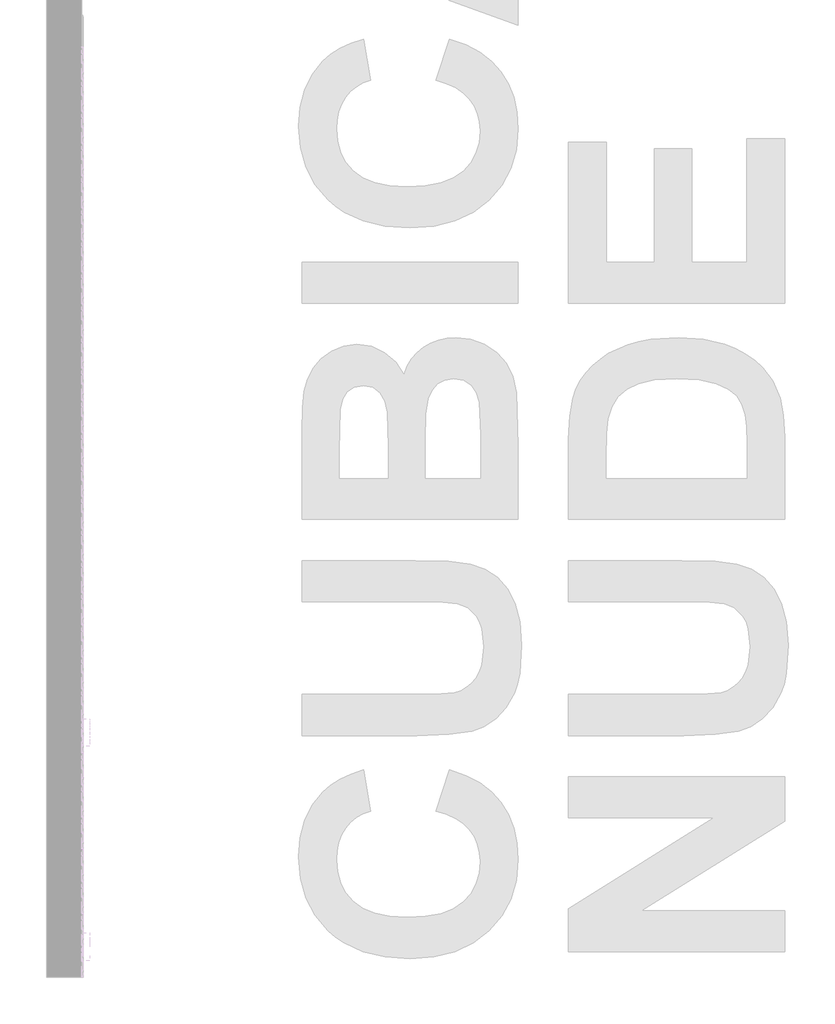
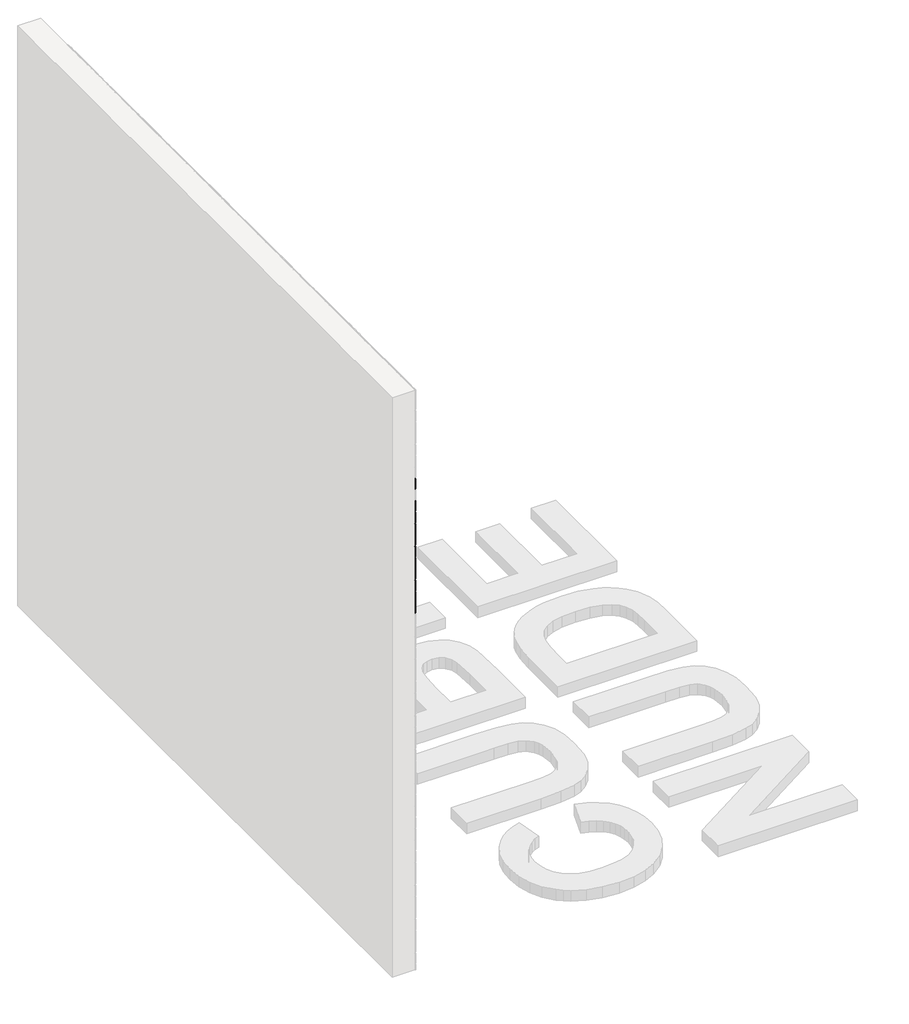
# One storey, part 52 of 121: 144 proxies.
"""IFC4 building model written with IfcOpenShell, lengths in millimetres."""

from ifc_helpers import new_model, si_unit, origin, place, context, project, spatial, transform, mapped, element, save
from components import generic_models_b2b2c5c1, generic_models_9bf73f6f, generic_models_5d175859, generic_models_45888c4d

model = new_model("IFC4")

# Units and contexts
model_context = context("Model", 3, world=origin())
ifc_project = project(units=[si_unit("LENGTHUNIT", "METRE", prefix="MILLI")], contexts=[model_context])

# Site, building, storey
site = spatial("IfcSite", under=ifc_project)
building = spatial("IfcBuilding", under=site)
storey = spatial("IfcBuildingStorey", under=building, Name="PORTOBELLO - SHOWROOM", Elevation=0.0)

# Proxies
placement = place(None, origin())
generic_models_shape = generic_models_b2b2c5c1(model_context)
element("IfcBuildingElementProxy", 1, Name="PBSHOP - CUBICA NUDE 4,8X8,3 : CUBICA NUDE - POSIÇÃO 01", ObjectType="PBSHOP - CUBICA NUDE 4,8X8,3 : CUBICA NUDE - POSIÇÃO 01", at=placement, inside=storey, context=model_context, shape_type="MappedRepresentation", body=[
    mapped(generic_models_shape, transform((150369.5341846, 6714.4851879, 1697.0495727), x_axis=(0.0, 1.0, 0.0), y_axis=(0.0, 0.0, 1.0), z_axis=(1.0, 0.0, 0.0))),
])
element("IfcBuildingElementProxy", 2, Name="PBSHOP - CUBICA NUDE 4,8X8,3 : CUBICA NUDE - POSIÇÃO 01", ObjectType="PBSHOP - CUBICA NUDE 4,8X8,3 : CUBICA NUDE - POSIÇÃO 01", at=placement, inside=storey, context=model_context, shape_type="MappedRepresentation", body=[
    mapped(generic_models_shape, transform((150369.5341846, 6805.3244572, 1697.0495727), x_axis=(0.0, 1.0, 0.0), y_axis=(0.0, 0.0, 1.0), z_axis=(1.0, 0.0, 0.0))),
])
element("IfcBuildingElementProxy", 3, Name="PBSHOP - CUBICA NUDE 4,8X8,3 : CUBICA NUDE - POSIÇÃO 01", ObjectType="PBSHOP - CUBICA NUDE 4,8X8,3 : CUBICA NUDE - POSIÇÃO 01", at=placement, inside=storey, context=model_context, shape_type="MappedRepresentation", body=[
    mapped(generic_models_shape, transform((150369.5341846, 6896.1637264, 1697.0495727), x_axis=(0.0, 1.0, 0.0), y_axis=(0.0, 0.0, 1.0), z_axis=(1.0, 0.0, 0.0))),
])
element("IfcBuildingElementProxy", 4, Name="PBSHOP - CUBICA NUDE 4,8X8,3 : CUBICA NUDE - POSIÇÃO 01", ObjectType="PBSHOP - CUBICA NUDE 4,8X8,3 : CUBICA NUDE - POSIÇÃO 01", at=placement, inside=storey, context=model_context, shape_type="MappedRepresentation", body=[
    mapped(generic_models_shape, transform((150369.5341846, 6987.0029957, 1697.0495727), x_axis=(0.0, 1.0, 0.0), y_axis=(0.0, 0.0, 1.0), z_axis=(1.0, 0.0, 0.0))),
])
element("IfcBuildingElementProxy", 5, Name="PBSHOP - CUBICA NUDE 4,8X8,3 : CUBICA NUDE - POSIÇÃO 01", ObjectType="PBSHOP - CUBICA NUDE 4,8X8,3 : CUBICA NUDE - POSIÇÃO 01", at=placement, inside=storey, context=model_context, shape_type="MappedRepresentation", body=[
    mapped(generic_models_shape, transform((150369.5341846, 6396.5477456, 1775.984211), x_axis=(0.0, 1.0, 0.0), y_axis=(0.0, 0.0, 1.0), z_axis=(1.0, 0.0, 0.0))),
])
element("IfcBuildingElementProxy", 6, Name="PBSHOP - CUBICA NUDE 4,8X8,3 : CUBICA NUDE - POSIÇÃO 01", ObjectType="PBSHOP - CUBICA NUDE 4,8X8,3 : CUBICA NUDE - POSIÇÃO 01", at=placement, inside=storey, context=model_context, shape_type="MappedRepresentation", body=[
    mapped(generic_models_shape, transform((150369.5341846, 6487.3870148, 1775.984211), x_axis=(0.0, 1.0, 0.0), y_axis=(0.0, 0.0, 1.0), z_axis=(1.0, 0.0, 0.0))),
])
element("IfcBuildingElementProxy", 7, Name="PBSHOP - CUBICA NUDE 4,8X8,3 : CUBICA NUDE - POSIÇÃO 01", ObjectType="PBSHOP - CUBICA NUDE 4,8X8,3 : CUBICA NUDE - POSIÇÃO 01", at=placement, inside=storey, context=model_context, shape_type="MappedRepresentation", body=[
    mapped(generic_models_shape, transform((150369.5341846, 6578.2262841, 1775.984211), x_axis=(0.0, 1.0, 0.0), y_axis=(0.0, 0.0, 1.0), z_axis=(1.0, 0.0, 0.0))),
])
element("IfcBuildingElementProxy", 8, Name="PBSHOP - CUBICA NUDE 4,8X8,3 : CUBICA NUDE - POSIÇÃO 01", ObjectType="PBSHOP - CUBICA NUDE 4,8X8,3 : CUBICA NUDE - POSIÇÃO 01", at=placement, inside=storey, context=model_context, shape_type="MappedRepresentation", body=[
    mapped(generic_models_shape, transform((150369.5341846, 6669.0655533, 1775.984211), x_axis=(0.0, 1.0, 0.0), y_axis=(0.0, 0.0, 1.0), z_axis=(1.0, 0.0, 0.0))),
])
element("IfcBuildingElementProxy", 9, Name="PBSHOP - CUBICA NUDE 4,8X8,3 : CUBICA NUDE - POSIÇÃO 01", ObjectType="PBSHOP - CUBICA NUDE 4,8X8,3 : CUBICA NUDE - POSIÇÃO 01", at=placement, inside=storey, context=model_context, shape_type="MappedRepresentation", body=[
    mapped(generic_models_shape, transform((150369.5341846, 6759.9048225, 1775.984211), x_axis=(0.0, 1.0, 0.0), y_axis=(0.0, 0.0, 1.0), z_axis=(1.0, 0.0, 0.0))),
])
element("IfcBuildingElementProxy", 10, Name="PBSHOP - CUBICA NUDE 4,8X8,3 : CUBICA NUDE - POSIÇÃO 01", ObjectType="PBSHOP - CUBICA NUDE 4,8X8,3 : CUBICA NUDE - POSIÇÃO 01", at=placement, inside=storey, context=model_context, shape_type="MappedRepresentation", body=[
    mapped(generic_models_shape, transform((150369.5341846, 6850.7440918, 1775.984211), x_axis=(0.0, 1.0, 0.0), y_axis=(0.0, 0.0, 1.0), z_axis=(1.0, 0.0, 0.0))),
])
element("IfcBuildingElementProxy", 11, Name="PBSHOP - CUBICA NUDE 4,8X8,3 : CUBICA NUDE - POSIÇÃO 01", ObjectType="PBSHOP - CUBICA NUDE 4,8X8,3 : CUBICA NUDE - POSIÇÃO 01", at=placement, inside=storey, context=model_context, shape_type="MappedRepresentation", body=[
    mapped(generic_models_shape, transform((150369.5341846, 6941.583361, 1775.984211), x_axis=(0.0, 1.0, 0.0), y_axis=(0.0, 0.0, 1.0), z_axis=(1.0, 0.0, 0.0))),
])
element("IfcBuildingElementProxy", 12, Name="PBSHOP - CUBICA NUDE 4,8X8,3 : CUBICA NUDE - POSIÇÃO 01", ObjectType="PBSHOP - CUBICA NUDE 4,8X8,3 : CUBICA NUDE - POSIÇÃO 01", at=placement, inside=storey, context=model_context, shape_type="MappedRepresentation", body=[
    mapped(generic_models_shape, transform((150369.5341846, 6441.9673802, 1854.9188494), x_axis=(0.0, 1.0, 0.0), y_axis=(0.0, 0.0, 1.0), z_axis=(1.0, 0.0, 0.0))),
])
element("IfcBuildingElementProxy", 13, Name="PBSHOP - CUBICA NUDE 4,8X8,3 : CUBICA NUDE - POSIÇÃO 01", ObjectType="PBSHOP - CUBICA NUDE 4,8X8,3 : CUBICA NUDE - POSIÇÃO 01", at=placement, inside=storey, context=model_context, shape_type="MappedRepresentation", body=[
    mapped(generic_models_shape, transform((150369.5341846, 6532.8066494, 1854.9188494), x_axis=(0.0, 1.0, 0.0), y_axis=(0.0, 0.0, 1.0), z_axis=(1.0, 0.0, 0.0))),
])
element("IfcBuildingElementProxy", 14, Name="PBSHOP - CUBICA NUDE 4,8X8,3 : CUBICA NUDE - POSIÇÃO 01", ObjectType="PBSHOP - CUBICA NUDE 4,8X8,3 : CUBICA NUDE - POSIÇÃO 01", at=placement, inside=storey, context=model_context, shape_type="MappedRepresentation", body=[
    mapped(generic_models_shape, transform((150369.5341846, 6623.6459187, 1854.9188494), x_axis=(0.0, 1.0, 0.0), y_axis=(0.0, 0.0, 1.0), z_axis=(1.0, 0.0, 0.0))),
])
element("IfcBuildingElementProxy", 15, Name="PBSHOP - CUBICA NUDE 4,8X8,3 : CUBICA NUDE - POSIÇÃO 01", ObjectType="PBSHOP - CUBICA NUDE 4,8X8,3 : CUBICA NUDE - POSIÇÃO 01", at=placement, inside=storey, context=model_context, shape_type="MappedRepresentation", body=[
    mapped(generic_models_shape, transform((150369.5341846, 6714.4851879, 1854.9188494), x_axis=(0.0, 1.0, 0.0), y_axis=(0.0, 0.0, 1.0), z_axis=(1.0, 0.0, 0.0))),
])
element("IfcBuildingElementProxy", 16, Name="PBSHOP - CUBICA NUDE 4,8X8,3 : CUBICA NUDE - POSIÇÃO 01", ObjectType="PBSHOP - CUBICA NUDE 4,8X8,3 : CUBICA NUDE - POSIÇÃO 01", at=placement, inside=storey, context=model_context, shape_type="MappedRepresentation", body=[
    mapped(generic_models_shape, transform((150369.5341846, 6805.3244572, 1854.9188494), x_axis=(0.0, 1.0, 0.0), y_axis=(0.0, 0.0, 1.0), z_axis=(1.0, 0.0, 0.0))),
])
element("IfcBuildingElementProxy", 17, Name="PBSHOP - CUBICA NUDE 4,8X8,3 : CUBICA NUDE - POSIÇÃO 01", ObjectType="PBSHOP - CUBICA NUDE 4,8X8,3 : CUBICA NUDE - POSIÇÃO 01", at=placement, inside=storey, context=model_context, shape_type="MappedRepresentation", body=[
    mapped(generic_models_shape, transform((150369.5341846, 6896.1637264, 1854.9188494), x_axis=(0.0, 1.0, 0.0), y_axis=(0.0, 0.0, 1.0), z_axis=(1.0, 0.0, 0.0))),
])
element("IfcBuildingElementProxy", 18, Name="PBSHOP - CUBICA NUDE 4,8X8,3 : CUBICA NUDE - POSIÇÃO 01", ObjectType="PBSHOP - CUBICA NUDE 4,8X8,3 : CUBICA NUDE - POSIÇÃO 01", at=placement, inside=storey, context=model_context, shape_type="MappedRepresentation", body=[
    mapped(generic_models_shape, transform((150369.5341846, 6987.0029957, 1854.9188494), x_axis=(0.0, 1.0, 0.0), y_axis=(0.0, 0.0, 1.0), z_axis=(1.0, 0.0, 0.0))),
])
element("IfcBuildingElementProxy", 19, Name="PBSHOP - CUBICA NUDE 4,8X8,3 : CUBICA NUDE - POSIÇÃO 01", ObjectType="PBSHOP - CUBICA NUDE 4,8X8,3 : CUBICA NUDE - POSIÇÃO 01", at=placement, inside=storey, context=model_context, shape_type="MappedRepresentation", body=[
    mapped(generic_models_shape, transform((150369.5341846, 6396.5477456, 1933.8534878), x_axis=(0.0, 1.0, 0.0), y_axis=(0.0, 0.0, 1.0), z_axis=(1.0, 0.0, 0.0))),
])
element("IfcBuildingElementProxy", 20, Name="PBSHOP - CUBICA NUDE 4,8X8,3 : CUBICA NUDE - POSIÇÃO 01", ObjectType="PBSHOP - CUBICA NUDE 4,8X8,3 : CUBICA NUDE - POSIÇÃO 01", at=placement, inside=storey, context=model_context, shape_type="MappedRepresentation", body=[
    mapped(generic_models_shape, transform((150369.5341846, 6487.3870148, 1933.8534878), x_axis=(0.0, 1.0, 0.0), y_axis=(0.0, 0.0, 1.0), z_axis=(1.0, 0.0, 0.0))),
])
element("IfcBuildingElementProxy", 21, Name="PBSHOP - CUBICA NUDE 4,8X8,3 : CUBICA NUDE - POSIÇÃO 01", ObjectType="PBSHOP - CUBICA NUDE 4,8X8,3 : CUBICA NUDE - POSIÇÃO 01", at=placement, inside=storey, context=model_context, shape_type="MappedRepresentation", body=[
    mapped(generic_models_shape, transform((150369.5341846, 6578.2262841, 1933.8534878), x_axis=(0.0, 1.0, 0.0), y_axis=(0.0, 0.0, 1.0), z_axis=(1.0, 0.0, 0.0))),
])
element("IfcBuildingElementProxy", 22, Name="PBSHOP - CUBICA NUDE 4,8X8,3 : CUBICA NUDE - POSIÇÃO 01", ObjectType="PBSHOP - CUBICA NUDE 4,8X8,3 : CUBICA NUDE - POSIÇÃO 01", at=placement, inside=storey, context=model_context, shape_type="MappedRepresentation", body=[
    mapped(generic_models_shape, transform((150369.5341846, 6669.0655533, 1933.8534878), x_axis=(0.0, 1.0, 0.0), y_axis=(0.0, 0.0, 1.0), z_axis=(1.0, 0.0, 0.0))),
])
element("IfcBuildingElementProxy", 23, Name="PBSHOP - CUBICA NUDE 4,8X8,3 : CUBICA NUDE - POSIÇÃO 01", ObjectType="PBSHOP - CUBICA NUDE 4,8X8,3 : CUBICA NUDE - POSIÇÃO 01", at=placement, inside=storey, context=model_context, shape_type="MappedRepresentation", body=[
    mapped(generic_models_shape, transform((150369.5341846, 6759.9048225, 1933.8534878), x_axis=(0.0, 1.0, 0.0), y_axis=(0.0, 0.0, 1.0), z_axis=(1.0, 0.0, 0.0))),
])
element("IfcBuildingElementProxy", 24, Name="PBSHOP - CUBICA NUDE 4,8X8,3 : CUBICA NUDE - POSIÇÃO 01", ObjectType="PBSHOP - CUBICA NUDE 4,8X8,3 : CUBICA NUDE - POSIÇÃO 01", at=placement, inside=storey, context=model_context, shape_type="MappedRepresentation", body=[
    mapped(generic_models_shape, transform((150369.5341846, 6850.7440918, 1933.8534878), x_axis=(0.0, 1.0, 0.0), y_axis=(0.0, 0.0, 1.0), z_axis=(1.0, 0.0, 0.0))),
])
element("IfcBuildingElementProxy", 25, Name="PBSHOP - CUBICA NUDE 4,8X8,3 : CUBICA NUDE - POSIÇÃO 01", ObjectType="PBSHOP - CUBICA NUDE 4,8X8,3 : CUBICA NUDE - POSIÇÃO 01", at=placement, inside=storey, context=model_context, shape_type="MappedRepresentation", body=[
    mapped(generic_models_shape, transform((150369.5341846, 6941.583361, 1933.8534878), x_axis=(0.0, 1.0, 0.0), y_axis=(0.0, 0.0, 1.0), z_axis=(1.0, 0.0, 0.0))),
])
element("IfcBuildingElementProxy", 26, Name="PBSHOP - CUBICA NUDE 4,8X8,3 : CUBICA NUDE - POSIÇÃO 01", ObjectType="PBSHOP - CUBICA NUDE 4,8X8,3 : CUBICA NUDE - POSIÇÃO 01", at=placement, inside=storey, context=model_context, shape_type="MappedRepresentation", body=[
    mapped(generic_models_shape, transform((150369.5341846, 6441.9673802, 2012.7881262), x_axis=(0.0, 1.0, 0.0), y_axis=(0.0, 0.0, 1.0), z_axis=(1.0, 0.0, 0.0))),
])
element("IfcBuildingElementProxy", 27, Name="PBSHOP - CUBICA NUDE 4,8X8,3 : CUBICA NUDE - POSIÇÃO 01", ObjectType="PBSHOP - CUBICA NUDE 4,8X8,3 : CUBICA NUDE - POSIÇÃO 01", at=placement, inside=storey, context=model_context, shape_type="MappedRepresentation", body=[
    mapped(generic_models_shape, transform((150369.5341846, 6532.8066494, 2012.7881262), x_axis=(0.0, 1.0, 0.0), y_axis=(0.0, 0.0, 1.0), z_axis=(1.0, 0.0, 0.0))),
])
element("IfcBuildingElementProxy", 28, Name="PBSHOP - CUBICA NUDE 4,8X8,3 : CUBICA NUDE - POSIÇÃO 01", ObjectType="PBSHOP - CUBICA NUDE 4,8X8,3 : CUBICA NUDE - POSIÇÃO 01", at=placement, inside=storey, context=model_context, shape_type="MappedRepresentation", body=[
    mapped(generic_models_shape, transform((150369.5341846, 6623.6459187, 2012.7881262), x_axis=(0.0, 1.0, 0.0), y_axis=(0.0, 0.0, 1.0), z_axis=(1.0, 0.0, 0.0))),
])
element("IfcBuildingElementProxy", 29, Name="PBSHOP - CUBICA NUDE 4,8X8,3 : CUBICA NUDE - POSIÇÃO 01", ObjectType="PBSHOP - CUBICA NUDE 4,8X8,3 : CUBICA NUDE - POSIÇÃO 01", at=placement, inside=storey, context=model_context, shape_type="MappedRepresentation", body=[
    mapped(generic_models_shape, transform((150369.5341846, 6714.4851879, 2012.7881262), x_axis=(0.0, 1.0, 0.0), y_axis=(0.0, 0.0, 1.0), z_axis=(1.0, 0.0, 0.0))),
])
element("IfcBuildingElementProxy", 30, Name="PBSHOP - CUBICA NUDE 4,8X8,3 : CUBICA NUDE - POSIÇÃO 01", ObjectType="PBSHOP - CUBICA NUDE 4,8X8,3 : CUBICA NUDE - POSIÇÃO 01", at=placement, inside=storey, context=model_context, shape_type="MappedRepresentation", body=[
    mapped(generic_models_shape, transform((150369.5341846, 6805.3244572, 2012.7881262), x_axis=(0.0, 1.0, 0.0), y_axis=(0.0, 0.0, 1.0), z_axis=(1.0, 0.0, 0.0))),
])
element("IfcBuildingElementProxy", 31, Name="PBSHOP - CUBICA NUDE 4,8X8,3 : CUBICA NUDE - POSIÇÃO 01", ObjectType="PBSHOP - CUBICA NUDE 4,8X8,3 : CUBICA NUDE - POSIÇÃO 01", at=placement, inside=storey, context=model_context, shape_type="MappedRepresentation", body=[
    mapped(generic_models_shape, transform((150369.5341846, 6896.1637264, 2012.7881262), x_axis=(0.0, 1.0, 0.0), y_axis=(0.0, 0.0, 1.0), z_axis=(1.0, 0.0, 0.0))),
])
element("IfcBuildingElementProxy", 32, Name="PBSHOP - CUBICA NUDE 4,8X8,3 : CUBICA NUDE - POSIÇÃO 01", ObjectType="PBSHOP - CUBICA NUDE 4,8X8,3 : CUBICA NUDE - POSIÇÃO 01", at=placement, inside=storey, context=model_context, shape_type="MappedRepresentation", body=[
    mapped(generic_models_shape, transform((150369.5341846, 6987.0029957, 2012.7881262), x_axis=(0.0, 1.0, 0.0), y_axis=(0.0, 0.0, 1.0), z_axis=(1.0, 0.0, 0.0))),
])
element("IfcBuildingElementProxy", 33, Name="PBSHOP - CUBICA NUDE 4,8X8,3 : CUBICA NUDE - POSIÇÃO 01", ObjectType="PBSHOP - CUBICA NUDE 4,8X8,3 : CUBICA NUDE - POSIÇÃO 01", at=placement, inside=storey, context=model_context, shape_type="MappedRepresentation", body=[
    mapped(generic_models_shape, transform((150369.5341846, 6396.5477456, 2091.7227645), x_axis=(0.0, 1.0, 0.0), y_axis=(0.0, 0.0, 1.0), z_axis=(1.0, 0.0, 0.0))),
])
element("IfcBuildingElementProxy", 34, Name="PBSHOP - CUBICA NUDE 4,8X8,3 : CUBICA NUDE - POSIÇÃO 01", ObjectType="PBSHOP - CUBICA NUDE 4,8X8,3 : CUBICA NUDE - POSIÇÃO 01", at=placement, inside=storey, context=model_context, shape_type="MappedRepresentation", body=[
    mapped(generic_models_shape, transform((150369.5341846, 6487.3870148, 2091.7227645), x_axis=(0.0, 1.0, 0.0), y_axis=(0.0, 0.0, 1.0), z_axis=(1.0, 0.0, 0.0))),
])
element("IfcBuildingElementProxy", 35, Name="PBSHOP - CUBICA NUDE 4,8X8,3 : CUBICA NUDE - POSIÇÃO 01", ObjectType="PBSHOP - CUBICA NUDE 4,8X8,3 : CUBICA NUDE - POSIÇÃO 01", at=placement, inside=storey, context=model_context, shape_type="MappedRepresentation", body=[
    mapped(generic_models_shape, transform((150369.5341846, 6578.2262841, 2091.7227645), x_axis=(0.0, 1.0, 0.0), y_axis=(0.0, 0.0, 1.0), z_axis=(1.0, 0.0, 0.0))),
])
element("IfcBuildingElementProxy", 36, Name="PBSHOP - CUBICA NUDE 4,8X8,3 : CUBICA NUDE - POSIÇÃO 01", ObjectType="PBSHOP - CUBICA NUDE 4,8X8,3 : CUBICA NUDE - POSIÇÃO 01", at=placement, inside=storey, context=model_context, shape_type="MappedRepresentation", body=[
    mapped(generic_models_shape, transform((150369.5341846, 6669.0655533, 2091.7227645), x_axis=(0.0, 1.0, 0.0), y_axis=(0.0, 0.0, 1.0), z_axis=(1.0, 0.0, 0.0))),
])
element("IfcBuildingElementProxy", 37, Name="PBSHOP - CUBICA NUDE 4,8X8,3 : CUBICA NUDE - POSIÇÃO 01", ObjectType="PBSHOP - CUBICA NUDE 4,8X8,3 : CUBICA NUDE - POSIÇÃO 01", at=placement, inside=storey, context=model_context, shape_type="MappedRepresentation", body=[
    mapped(generic_models_shape, transform((150369.5341846, 6759.9048225, 2091.7227645), x_axis=(0.0, 1.0, 0.0), y_axis=(0.0, 0.0, 1.0), z_axis=(1.0, 0.0, 0.0))),
])
element("IfcBuildingElementProxy", 38, Name="PBSHOP - CUBICA NUDE 4,8X8,3 : CUBICA NUDE - POSIÇÃO 01", ObjectType="PBSHOP - CUBICA NUDE 4,8X8,3 : CUBICA NUDE - POSIÇÃO 01", at=placement, inside=storey, context=model_context, shape_type="MappedRepresentation", body=[
    mapped(generic_models_shape, transform((150369.5341846, 6850.7440918, 2091.7227645), x_axis=(0.0, 1.0, 0.0), y_axis=(0.0, 0.0, 1.0), z_axis=(1.0, 0.0, 0.0))),
])
element("IfcBuildingElementProxy", 39, Name="PBSHOP - CUBICA NUDE 4,8X8,3 : CUBICA NUDE - POSIÇÃO 01", ObjectType="PBSHOP - CUBICA NUDE 4,8X8,3 : CUBICA NUDE - POSIÇÃO 01", at=placement, inside=storey, context=model_context, shape_type="MappedRepresentation", body=[
    mapped(generic_models_shape, transform((150369.5341846, 6941.583361, 2091.7227645), x_axis=(0.0, 1.0, 0.0), y_axis=(0.0, 0.0, 1.0), z_axis=(1.0, 0.0, 0.0))),
])
element("IfcBuildingElementProxy", 40, Name="PBSHOP - CUBICA NUDE 4,8X8,3 : CUBICA NUDE - POSIÇÃO 01", ObjectType="PBSHOP - CUBICA NUDE 4,8X8,3 : CUBICA NUDE - POSIÇÃO 01", at=placement, inside=storey, context=model_context, shape_type="MappedRepresentation", body=[
    mapped(generic_models_shape, transform((150369.5341846, 6441.9673802, 2170.6574029), x_axis=(0.0, 1.0, 0.0), y_axis=(0.0, 0.0, 1.0), z_axis=(1.0, 0.0, 0.0))),
])
element("IfcBuildingElementProxy", 41, Name="PBSHOP - CUBICA NUDE 4,8X8,3 : CUBICA NUDE - POSIÇÃO 01", ObjectType="PBSHOP - CUBICA NUDE 4,8X8,3 : CUBICA NUDE - POSIÇÃO 01", at=placement, inside=storey, context=model_context, shape_type="MappedRepresentation", body=[
    mapped(generic_models_shape, transform((150369.5341846, 6532.8066494, 2170.6574029), x_axis=(0.0, 1.0, 0.0), y_axis=(0.0, 0.0, 1.0), z_axis=(1.0, 0.0, 0.0))),
])
element("IfcBuildingElementProxy", 42, Name="PBSHOP - CUBICA NUDE 4,8X8,3 : CUBICA NUDE - POSIÇÃO 01", ObjectType="PBSHOP - CUBICA NUDE 4,8X8,3 : CUBICA NUDE - POSIÇÃO 01", at=placement, inside=storey, context=model_context, shape_type="MappedRepresentation", body=[
    mapped(generic_models_shape, transform((150369.5341846, 6623.6459187, 2170.6574029), x_axis=(0.0, 1.0, 0.0), y_axis=(0.0, 0.0, 1.0), z_axis=(1.0, 0.0, 0.0))),
])
element("IfcBuildingElementProxy", 43, Name="PBSHOP - CUBICA NUDE 4,8X8,3 : CUBICA NUDE - POSIÇÃO 01", ObjectType="PBSHOP - CUBICA NUDE 4,8X8,3 : CUBICA NUDE - POSIÇÃO 01", at=placement, inside=storey, context=model_context, shape_type="MappedRepresentation", body=[
    mapped(generic_models_shape, transform((150369.5341846, 6714.4851879, 2170.6574029), x_axis=(0.0, 1.0, 0.0), y_axis=(0.0, 0.0, 1.0), z_axis=(1.0, 0.0, 0.0))),
])
element("IfcBuildingElementProxy", 44, Name="PBSHOP - CUBICA NUDE 4,8X8,3 : CUBICA NUDE - POSIÇÃO 01", ObjectType="PBSHOP - CUBICA NUDE 4,8X8,3 : CUBICA NUDE - POSIÇÃO 01", at=placement, inside=storey, context=model_context, shape_type="MappedRepresentation", body=[
    mapped(generic_models_shape, transform((150369.5341846, 6805.3244572, 2170.6574029), x_axis=(0.0, 1.0, 0.0), y_axis=(0.0, 0.0, 1.0), z_axis=(1.0, 0.0, 0.0))),
])
element("IfcBuildingElementProxy", 45, Name="PBSHOP - CUBICA NUDE 4,8X8,3 : CUBICA NUDE - POSIÇÃO 01", ObjectType="PBSHOP - CUBICA NUDE 4,8X8,3 : CUBICA NUDE - POSIÇÃO 01", at=placement, inside=storey, context=model_context, shape_type="MappedRepresentation", body=[
    mapped(generic_models_shape, transform((150369.5341846, 6896.1637264, 2170.6574029), x_axis=(0.0, 1.0, 0.0), y_axis=(0.0, 0.0, 1.0), z_axis=(1.0, 0.0, 0.0))),
])
element("IfcBuildingElementProxy", 46, Name="PBSHOP - CUBICA NUDE 4,8X8,3 : CUBICA NUDE - POSIÇÃO 01", ObjectType="PBSHOP - CUBICA NUDE 4,8X8,3 : CUBICA NUDE - POSIÇÃO 01", at=placement, inside=storey, context=model_context, shape_type="MappedRepresentation", body=[
    mapped(generic_models_shape, transform((150369.5341846, 6987.0029957, 2170.6574029), x_axis=(0.0, 1.0, 0.0), y_axis=(0.0, 0.0, 1.0), z_axis=(1.0, 0.0, 0.0))),
])
element("IfcBuildingElementProxy", 47, Name="PBSHOP - CUBICA NUDE 4,8X8,3 : CUBICA NUDE - POSIÇÃO 01", ObjectType="PBSHOP - CUBICA NUDE 4,8X8,3 : CUBICA NUDE - POSIÇÃO 01", at=placement, inside=storey, context=model_context, shape_type="MappedRepresentation", body=[
    mapped(generic_models_shape, transform((150369.5341846, 6396.5477456, 2249.5920413), x_axis=(0.0, 1.0, 0.0), y_axis=(0.0, 0.0, 1.0), z_axis=(1.0, 0.0, 0.0))),
])
element("IfcBuildingElementProxy", 48, Name="PBSHOP - CUBICA NUDE 4,8X8,3 : CUBICA NUDE - POSIÇÃO 01", ObjectType="PBSHOP - CUBICA NUDE 4,8X8,3 : CUBICA NUDE - POSIÇÃO 01", at=placement, inside=storey, context=model_context, shape_type="MappedRepresentation", body=[
    mapped(generic_models_shape, transform((150369.5341846, 6487.3870148, 2249.5920413), x_axis=(0.0, 1.0, 0.0), y_axis=(0.0, 0.0, 1.0), z_axis=(1.0, 0.0, 0.0))),
])
generic_models_2_shape = generic_models_9bf73f6f(model_context)
element("IfcBuildingElementProxy", 49, Name="PBSHOP - CUBICA NUDE 4,8X8,3 : CUBICA NUDE - POSIÇÃO 03", ObjectType="PBSHOP - CUBICA NUDE 4,8X8,3 : CUBICA NUDE - POSIÇÃO 03", at=placement, inside=storey, context=model_context, shape_type="MappedRepresentation", body=[
    mapped(generic_models_2_shape, transform((150369.5341846, 6419.259722, 1657.5410431), x_axis=(0.0, 1.0, 0.0), y_axis=(0.0, 0.0, 1.0), z_axis=(1.0, 0.0, 0.0))),
])
element("IfcBuildingElementProxy", 50, Name="PBSHOP - CUBICA NUDE 4,8X8,3 : CUBICA NUDE - POSIÇÃO 03", ObjectType="PBSHOP - CUBICA NUDE 4,8X8,3 : CUBICA NUDE - POSIÇÃO 03", at=placement, inside=storey, context=model_context, shape_type="MappedRepresentation", body=[
    mapped(generic_models_2_shape, transform((150369.5341846, 6510.0989913, 1657.5410431), x_axis=(0.0, 1.0, 0.0), y_axis=(0.0, 0.0, 1.0), z_axis=(1.0, 0.0, 0.0))),
])
element("IfcBuildingElementProxy", 51, Name="PBSHOP - CUBICA NUDE 4,8X8,3 : CUBICA NUDE - POSIÇÃO 03", ObjectType="PBSHOP - CUBICA NUDE 4,8X8,3 : CUBICA NUDE - POSIÇÃO 03", at=placement, inside=storey, context=model_context, shape_type="MappedRepresentation", body=[
    mapped(generic_models_2_shape, transform((150369.5341846, 6600.9382605, 1657.5410431), x_axis=(0.0, 1.0, 0.0), y_axis=(0.0, 0.0, 1.0), z_axis=(1.0, 0.0, 0.0))),
])
element("IfcBuildingElementProxy", 52, Name="PBSHOP - CUBICA NUDE 4,8X8,3 : CUBICA NUDE - POSIÇÃO 03", ObjectType="PBSHOP - CUBICA NUDE 4,8X8,3 : CUBICA NUDE - POSIÇÃO 03", at=placement, inside=storey, context=model_context, shape_type="MappedRepresentation", body=[
    mapped(generic_models_2_shape, transform((150369.5341846, 6691.7775298, 1657.5410431), x_axis=(0.0, 1.0, 0.0), y_axis=(0.0, 0.0, 1.0), z_axis=(1.0, 0.0, 0.0))),
])
element("IfcBuildingElementProxy", 53, Name="PBSHOP - CUBICA NUDE 4,8X8,3 : CUBICA NUDE - POSIÇÃO 03", ObjectType="PBSHOP - CUBICA NUDE 4,8X8,3 : CUBICA NUDE - POSIÇÃO 03", at=placement, inside=storey, context=model_context, shape_type="MappedRepresentation", body=[
    mapped(generic_models_2_shape, transform((150369.5341846, 6782.616799, 1657.5410431), x_axis=(0.0, 1.0, 0.0), y_axis=(0.0, 0.0, 1.0), z_axis=(1.0, 0.0, 0.0))),
])
element("IfcBuildingElementProxy", 54, Name="PBSHOP - CUBICA NUDE 4,8X8,3 : CUBICA NUDE - POSIÇÃO 03", ObjectType="PBSHOP - CUBICA NUDE 4,8X8,3 : CUBICA NUDE - POSIÇÃO 03", at=placement, inside=storey, context=model_context, shape_type="MappedRepresentation", body=[
    mapped(generic_models_2_shape, transform((150369.5341846, 6873.4560683, 1657.5410431), x_axis=(0.0, 1.0, 0.0), y_axis=(0.0, 0.0, 1.0), z_axis=(1.0, 0.0, 0.0))),
])
element("IfcBuildingElementProxy", 55, Name="PBSHOP - CUBICA NUDE 4,8X8,3 : CUBICA NUDE - POSIÇÃO 03", ObjectType="PBSHOP - CUBICA NUDE 4,8X8,3 : CUBICA NUDE - POSIÇÃO 03", at=placement, inside=storey, context=model_context, shape_type="MappedRepresentation", body=[
    mapped(generic_models_2_shape, transform((150369.5341846, 6964.2953375, 1657.5410431), x_axis=(0.0, 1.0, 0.0), y_axis=(0.0, 0.0, 1.0), z_axis=(1.0, 0.0, 0.0))),
])
element("IfcBuildingElementProxy", 56, Name="PBSHOP - CUBICA NUDE 4,8X8,3 : CUBICA NUDE - POSIÇÃO 03", ObjectType="PBSHOP - CUBICA NUDE 4,8X8,3 : CUBICA NUDE - POSIÇÃO 03", at=placement, inside=storey, context=model_context, shape_type="MappedRepresentation", body=[
    mapped(generic_models_2_shape, transform((150369.5341846, 6464.6793567, 1736.4756814), x_axis=(0.0, 1.0, 0.0), y_axis=(0.0, 0.0, 1.0), z_axis=(1.0, 0.0, 0.0))),
])
element("IfcBuildingElementProxy", 57, Name="PBSHOP - CUBICA NUDE 4,8X8,3 : CUBICA NUDE - POSIÇÃO 03", ObjectType="PBSHOP - CUBICA NUDE 4,8X8,3 : CUBICA NUDE - POSIÇÃO 03", at=placement, inside=storey, context=model_context, shape_type="MappedRepresentation", body=[
    mapped(generic_models_2_shape, transform((150369.5341846, 6555.5186259, 1736.4756814), x_axis=(0.0, 1.0, 0.0), y_axis=(0.0, 0.0, 1.0), z_axis=(1.0, 0.0, 0.0))),
])
element("IfcBuildingElementProxy", 58, Name="PBSHOP - CUBICA NUDE 4,8X8,3 : CUBICA NUDE - POSIÇÃO 03", ObjectType="PBSHOP - CUBICA NUDE 4,8X8,3 : CUBICA NUDE - POSIÇÃO 03", at=placement, inside=storey, context=model_context, shape_type="MappedRepresentation", body=[
    mapped(generic_models_2_shape, transform((150369.5341846, 6646.3578952, 1736.4756814), x_axis=(0.0, 1.0, 0.0), y_axis=(0.0, 0.0, 1.0), z_axis=(1.0, 0.0, 0.0))),
])
element("IfcBuildingElementProxy", 59, Name="PBSHOP - CUBICA NUDE 4,8X8,3 : CUBICA NUDE - POSIÇÃO 03", ObjectType="PBSHOP - CUBICA NUDE 4,8X8,3 : CUBICA NUDE - POSIÇÃO 03", at=placement, inside=storey, context=model_context, shape_type="MappedRepresentation", body=[
    mapped(generic_models_2_shape, transform((150369.5341846, 6737.1971644, 1736.4756814), x_axis=(0.0, 1.0, 0.0), y_axis=(0.0, 0.0, 1.0), z_axis=(1.0, 0.0, 0.0))),
])
element("IfcBuildingElementProxy", 60, Name="PBSHOP - CUBICA NUDE 4,8X8,3 : CUBICA NUDE - POSIÇÃO 03", ObjectType="PBSHOP - CUBICA NUDE 4,8X8,3 : CUBICA NUDE - POSIÇÃO 03", at=placement, inside=storey, context=model_context, shape_type="MappedRepresentation", body=[
    mapped(generic_models_2_shape, transform((150369.5341846, 6828.0364336, 1736.4756814), x_axis=(0.0, 1.0, 0.0), y_axis=(0.0, 0.0, 1.0), z_axis=(1.0, 0.0, 0.0))),
])
element("IfcBuildingElementProxy", 61, Name="PBSHOP - CUBICA NUDE 4,8X8,3 : CUBICA NUDE - POSIÇÃO 03", ObjectType="PBSHOP - CUBICA NUDE 4,8X8,3 : CUBICA NUDE - POSIÇÃO 03", at=placement, inside=storey, context=model_context, shape_type="MappedRepresentation", body=[
    mapped(generic_models_2_shape, transform((150369.5341846, 6918.8757029, 1736.4756814), x_axis=(0.0, 1.0, 0.0), y_axis=(0.0, 0.0, 1.0), z_axis=(1.0, 0.0, 0.0))),
])
element("IfcBuildingElementProxy", 62, Name="PBSHOP - CUBICA NUDE 4,8X8,3 : CUBICA NUDE - POSIÇÃO 03", ObjectType="PBSHOP - CUBICA NUDE 4,8X8,3 : CUBICA NUDE - POSIÇÃO 03", at=placement, inside=storey, context=model_context, shape_type="MappedRepresentation", body=[
    mapped(generic_models_2_shape, transform((150369.5341846, 6419.259722, 1815.4103198), x_axis=(0.0, 1.0, 0.0), y_axis=(0.0, 0.0, 1.0), z_axis=(1.0, 0.0, 0.0))),
])
element("IfcBuildingElementProxy", 63, Name="PBSHOP - CUBICA NUDE 4,8X8,3 : CUBICA NUDE - POSIÇÃO 03", ObjectType="PBSHOP - CUBICA NUDE 4,8X8,3 : CUBICA NUDE - POSIÇÃO 03", at=placement, inside=storey, context=model_context, shape_type="MappedRepresentation", body=[
    mapped(generic_models_2_shape, transform((150369.5341846, 6510.0989913, 1815.4103198), x_axis=(0.0, 1.0, 0.0), y_axis=(0.0, 0.0, 1.0), z_axis=(1.0, 0.0, 0.0))),
])
element("IfcBuildingElementProxy", 64, Name="PBSHOP - CUBICA NUDE 4,8X8,3 : CUBICA NUDE - POSIÇÃO 03", ObjectType="PBSHOP - CUBICA NUDE 4,8X8,3 : CUBICA NUDE - POSIÇÃO 03", at=placement, inside=storey, context=model_context, shape_type="MappedRepresentation", body=[
    mapped(generic_models_2_shape, transform((150369.5341846, 6600.9382605, 1815.4103198), x_axis=(0.0, 1.0, 0.0), y_axis=(0.0, 0.0, 1.0), z_axis=(1.0, 0.0, 0.0))),
])
element("IfcBuildingElementProxy", 65, Name="PBSHOP - CUBICA NUDE 4,8X8,3 : CUBICA NUDE - POSIÇÃO 03", ObjectType="PBSHOP - CUBICA NUDE 4,8X8,3 : CUBICA NUDE - POSIÇÃO 03", at=placement, inside=storey, context=model_context, shape_type="MappedRepresentation", body=[
    mapped(generic_models_2_shape, transform((150369.5341846, 6691.7775298, 1815.4103198), x_axis=(0.0, 1.0, 0.0), y_axis=(0.0, 0.0, 1.0), z_axis=(1.0, 0.0, 0.0))),
])
element("IfcBuildingElementProxy", 66, Name="PBSHOP - CUBICA NUDE 4,8X8,3 : CUBICA NUDE - POSIÇÃO 03", ObjectType="PBSHOP - CUBICA NUDE 4,8X8,3 : CUBICA NUDE - POSIÇÃO 03", at=placement, inside=storey, context=model_context, shape_type="MappedRepresentation", body=[
    mapped(generic_models_2_shape, transform((150369.5341846, 6782.616799, 1815.4103198), x_axis=(0.0, 1.0, 0.0), y_axis=(0.0, 0.0, 1.0), z_axis=(1.0, 0.0, 0.0))),
])
element("IfcBuildingElementProxy", 67, Name="PBSHOP - CUBICA NUDE 4,8X8,3 : CUBICA NUDE - POSIÇÃO 03", ObjectType="PBSHOP - CUBICA NUDE 4,8X8,3 : CUBICA NUDE - POSIÇÃO 03", at=placement, inside=storey, context=model_context, shape_type="MappedRepresentation", body=[
    mapped(generic_models_2_shape, transform((150369.5341846, 6873.4560683, 1815.4103198), x_axis=(0.0, 1.0, 0.0), y_axis=(0.0, 0.0, 1.0), z_axis=(1.0, 0.0, 0.0))),
])
element("IfcBuildingElementProxy", 68, Name="PBSHOP - CUBICA NUDE 4,8X8,3 : CUBICA NUDE - POSIÇÃO 03", ObjectType="PBSHOP - CUBICA NUDE 4,8X8,3 : CUBICA NUDE - POSIÇÃO 03", at=placement, inside=storey, context=model_context, shape_type="MappedRepresentation", body=[
    mapped(generic_models_2_shape, transform((150369.5341846, 6964.2953375, 1815.4103198), x_axis=(0.0, 1.0, 0.0), y_axis=(0.0, 0.0, 1.0), z_axis=(1.0, 0.0, 0.0))),
])
element("IfcBuildingElementProxy", 69, Name="PBSHOP - CUBICA NUDE 4,8X8,3 : CUBICA NUDE - POSIÇÃO 03", ObjectType="PBSHOP - CUBICA NUDE 4,8X8,3 : CUBICA NUDE - POSIÇÃO 03", at=placement, inside=storey, context=model_context, shape_type="MappedRepresentation", body=[
    mapped(generic_models_2_shape, transform((150369.5341846, 6464.6793567, 1894.3449582), x_axis=(0.0, 1.0, 0.0), y_axis=(0.0, 0.0, 1.0), z_axis=(1.0, 0.0, 0.0))),
])
element("IfcBuildingElementProxy", 70, Name="PBSHOP - CUBICA NUDE 4,8X8,3 : CUBICA NUDE - POSIÇÃO 03", ObjectType="PBSHOP - CUBICA NUDE 4,8X8,3 : CUBICA NUDE - POSIÇÃO 03", at=placement, inside=storey, context=model_context, shape_type="MappedRepresentation", body=[
    mapped(generic_models_2_shape, transform((150369.5341846, 6555.5186259, 1894.3449582), x_axis=(0.0, 1.0, 0.0), y_axis=(0.0, 0.0, 1.0), z_axis=(1.0, 0.0, 0.0))),
])
element("IfcBuildingElementProxy", 71, Name="PBSHOP - CUBICA NUDE 4,8X8,3 : CUBICA NUDE - POSIÇÃO 03", ObjectType="PBSHOP - CUBICA NUDE 4,8X8,3 : CUBICA NUDE - POSIÇÃO 03", at=placement, inside=storey, context=model_context, shape_type="MappedRepresentation", body=[
    mapped(generic_models_2_shape, transform((150369.5341846, 6646.3578952, 1894.3449582), x_axis=(0.0, 1.0, 0.0), y_axis=(0.0, 0.0, 1.0), z_axis=(1.0, 0.0, 0.0))),
])
element("IfcBuildingElementProxy", 72, Name="PBSHOP - CUBICA NUDE 4,8X8,3 : CUBICA NUDE - POSIÇÃO 03", ObjectType="PBSHOP - CUBICA NUDE 4,8X8,3 : CUBICA NUDE - POSIÇÃO 03", at=placement, inside=storey, context=model_context, shape_type="MappedRepresentation", body=[
    mapped(generic_models_2_shape, transform((150369.5341846, 6737.1971644, 1894.3449582), x_axis=(0.0, 1.0, 0.0), y_axis=(0.0, 0.0, 1.0), z_axis=(1.0, 0.0, 0.0))),
])
element("IfcBuildingElementProxy", 73, Name="PBSHOP - CUBICA NUDE 4,8X8,3 : CUBICA NUDE - POSIÇÃO 03", ObjectType="PBSHOP - CUBICA NUDE 4,8X8,3 : CUBICA NUDE - POSIÇÃO 03", at=placement, inside=storey, context=model_context, shape_type="MappedRepresentation", body=[
    mapped(generic_models_2_shape, transform((150369.5341846, 6828.0364336, 1894.3449582), x_axis=(0.0, 1.0, 0.0), y_axis=(0.0, 0.0, 1.0), z_axis=(1.0, 0.0, 0.0))),
])
element("IfcBuildingElementProxy", 74, Name="PBSHOP - CUBICA NUDE 4,8X8,3 : CUBICA NUDE - POSIÇÃO 03", ObjectType="PBSHOP - CUBICA NUDE 4,8X8,3 : CUBICA NUDE - POSIÇÃO 03", at=placement, inside=storey, context=model_context, shape_type="MappedRepresentation", body=[
    mapped(generic_models_2_shape, transform((150369.5341846, 6918.8757029, 1894.3449582), x_axis=(0.0, 1.0, 0.0), y_axis=(0.0, 0.0, 1.0), z_axis=(1.0, 0.0, 0.0))),
])
element("IfcBuildingElementProxy", 75, Name="PBSHOP - CUBICA NUDE 4,8X8,3 : CUBICA NUDE - POSIÇÃO 03", ObjectType="PBSHOP - CUBICA NUDE 4,8X8,3 : CUBICA NUDE - POSIÇÃO 03", at=placement, inside=storey, context=model_context, shape_type="MappedRepresentation", body=[
    mapped(generic_models_2_shape, transform((150369.5341846, 6419.259722, 1973.2795966), x_axis=(0.0, 1.0, 0.0), y_axis=(0.0, 0.0, 1.0), z_axis=(1.0, 0.0, 0.0))),
])
element("IfcBuildingElementProxy", 76, Name="PBSHOP - CUBICA NUDE 4,8X8,3 : CUBICA NUDE - POSIÇÃO 03", ObjectType="PBSHOP - CUBICA NUDE 4,8X8,3 : CUBICA NUDE - POSIÇÃO 03", at=placement, inside=storey, context=model_context, shape_type="MappedRepresentation", body=[
    mapped(generic_models_2_shape, transform((150369.5341846, 6510.0989913, 1973.2795966), x_axis=(0.0, 1.0, 0.0), y_axis=(0.0, 0.0, 1.0), z_axis=(1.0, 0.0, 0.0))),
])
element("IfcBuildingElementProxy", 77, Name="PBSHOP - CUBICA NUDE 4,8X8,3 : CUBICA NUDE - POSIÇÃO 03", ObjectType="PBSHOP - CUBICA NUDE 4,8X8,3 : CUBICA NUDE - POSIÇÃO 03", at=placement, inside=storey, context=model_context, shape_type="MappedRepresentation", body=[
    mapped(generic_models_2_shape, transform((150369.5341846, 6600.9382605, 1973.2795966), x_axis=(0.0, 1.0, 0.0), y_axis=(0.0, 0.0, 1.0), z_axis=(1.0, 0.0, 0.0))),
])
element("IfcBuildingElementProxy", 78, Name="PBSHOP - CUBICA NUDE 4,8X8,3 : CUBICA NUDE - POSIÇÃO 03", ObjectType="PBSHOP - CUBICA NUDE 4,8X8,3 : CUBICA NUDE - POSIÇÃO 03", at=placement, inside=storey, context=model_context, shape_type="MappedRepresentation", body=[
    mapped(generic_models_2_shape, transform((150369.5341846, 6691.7775298, 1973.2795966), x_axis=(0.0, 1.0, 0.0), y_axis=(0.0, 0.0, 1.0), z_axis=(1.0, 0.0, 0.0))),
])
element("IfcBuildingElementProxy", 79, Name="PBSHOP - CUBICA NUDE 4,8X8,3 : CUBICA NUDE - POSIÇÃO 03", ObjectType="PBSHOP - CUBICA NUDE 4,8X8,3 : CUBICA NUDE - POSIÇÃO 03", at=placement, inside=storey, context=model_context, shape_type="MappedRepresentation", body=[
    mapped(generic_models_2_shape, transform((150369.5341846, 6782.616799, 1973.2795966), x_axis=(0.0, 1.0, 0.0), y_axis=(0.0, 0.0, 1.0), z_axis=(1.0, 0.0, 0.0))),
])
element("IfcBuildingElementProxy", 80, Name="PBSHOP - CUBICA NUDE 4,8X8,3 : CUBICA NUDE - POSIÇÃO 03", ObjectType="PBSHOP - CUBICA NUDE 4,8X8,3 : CUBICA NUDE - POSIÇÃO 03", at=placement, inside=storey, context=model_context, shape_type="MappedRepresentation", body=[
    mapped(generic_models_2_shape, transform((150369.5341846, 6873.4560683, 1973.2795966), x_axis=(0.0, 1.0, 0.0), y_axis=(0.0, 0.0, 1.0), z_axis=(1.0, 0.0, 0.0))),
])
element("IfcBuildingElementProxy", 81, Name="PBSHOP - CUBICA NUDE 4,8X8,3 : CUBICA NUDE - POSIÇÃO 03", ObjectType="PBSHOP - CUBICA NUDE 4,8X8,3 : CUBICA NUDE - POSIÇÃO 03", at=placement, inside=storey, context=model_context, shape_type="MappedRepresentation", body=[
    mapped(generic_models_2_shape, transform((150369.5341846, 6964.2953375, 1973.2795966), x_axis=(0.0, 1.0, 0.0), y_axis=(0.0, 0.0, 1.0), z_axis=(1.0, 0.0, 0.0))),
])
element("IfcBuildingElementProxy", 82, Name="PBSHOP - CUBICA NUDE 4,8X8,3 : CUBICA NUDE - POSIÇÃO 03", ObjectType="PBSHOP - CUBICA NUDE 4,8X8,3 : CUBICA NUDE - POSIÇÃO 03", at=placement, inside=storey, context=model_context, shape_type="MappedRepresentation", body=[
    mapped(generic_models_2_shape, transform((150369.5341846, 6464.6793567, 2052.2142349), x_axis=(0.0, 1.0, 0.0), y_axis=(0.0, 0.0, 1.0), z_axis=(1.0, 0.0, 0.0))),
])
element("IfcBuildingElementProxy", 83, Name="PBSHOP - CUBICA NUDE 4,8X8,3 : CUBICA NUDE - POSIÇÃO 03", ObjectType="PBSHOP - CUBICA NUDE 4,8X8,3 : CUBICA NUDE - POSIÇÃO 03", at=placement, inside=storey, context=model_context, shape_type="MappedRepresentation", body=[
    mapped(generic_models_2_shape, transform((150369.5341846, 6555.5186259, 2052.2142349), x_axis=(0.0, 1.0, 0.0), y_axis=(0.0, 0.0, 1.0), z_axis=(1.0, 0.0, 0.0))),
])
element("IfcBuildingElementProxy", 84, Name="PBSHOP - CUBICA NUDE 4,8X8,3 : CUBICA NUDE - POSIÇÃO 03", ObjectType="PBSHOP - CUBICA NUDE 4,8X8,3 : CUBICA NUDE - POSIÇÃO 03", at=placement, inside=storey, context=model_context, shape_type="MappedRepresentation", body=[
    mapped(generic_models_2_shape, transform((150369.5341846, 6646.3578952, 2052.2142349), x_axis=(0.0, 1.0, 0.0), y_axis=(0.0, 0.0, 1.0), z_axis=(1.0, 0.0, 0.0))),
])
element("IfcBuildingElementProxy", 85, Name="PBSHOP - CUBICA NUDE 4,8X8,3 : CUBICA NUDE - POSIÇÃO 03", ObjectType="PBSHOP - CUBICA NUDE 4,8X8,3 : CUBICA NUDE - POSIÇÃO 03", at=placement, inside=storey, context=model_context, shape_type="MappedRepresentation", body=[
    mapped(generic_models_2_shape, transform((150369.5341846, 6737.1971644, 2052.2142349), x_axis=(0.0, 1.0, 0.0), y_axis=(0.0, 0.0, 1.0), z_axis=(1.0, 0.0, 0.0))),
])
element("IfcBuildingElementProxy", 86, Name="PBSHOP - CUBICA NUDE 4,8X8,3 : CUBICA NUDE - POSIÇÃO 03", ObjectType="PBSHOP - CUBICA NUDE 4,8X8,3 : CUBICA NUDE - POSIÇÃO 03", at=placement, inside=storey, context=model_context, shape_type="MappedRepresentation", body=[
    mapped(generic_models_2_shape, transform((150369.5341846, 6828.0364336, 2052.2142349), x_axis=(0.0, 1.0, 0.0), y_axis=(0.0, 0.0, 1.0), z_axis=(1.0, 0.0, 0.0))),
])
element("IfcBuildingElementProxy", 87, Name="PBSHOP - CUBICA NUDE 4,8X8,3 : CUBICA NUDE - POSIÇÃO 03", ObjectType="PBSHOP - CUBICA NUDE 4,8X8,3 : CUBICA NUDE - POSIÇÃO 03", at=placement, inside=storey, context=model_context, shape_type="MappedRepresentation", body=[
    mapped(generic_models_2_shape, transform((150369.5341846, 6918.8757029, 2052.2142349), x_axis=(0.0, 1.0, 0.0), y_axis=(0.0, 0.0, 1.0), z_axis=(1.0, 0.0, 0.0))),
])
element("IfcBuildingElementProxy", 88, Name="PBSHOP - CUBICA NUDE 4,8X8,3 : CUBICA NUDE - POSIÇÃO 03", ObjectType="PBSHOP - CUBICA NUDE 4,8X8,3 : CUBICA NUDE - POSIÇÃO 03", at=placement, inside=storey, context=model_context, shape_type="MappedRepresentation", body=[
    mapped(generic_models_2_shape, transform((150369.5341846, 6419.259722, 2131.1488733), x_axis=(0.0, 1.0, 0.0), y_axis=(0.0, 0.0, 1.0), z_axis=(1.0, 0.0, 0.0))),
])
element("IfcBuildingElementProxy", 89, Name="PBSHOP - CUBICA NUDE 4,8X8,3 : CUBICA NUDE - POSIÇÃO 03", ObjectType="PBSHOP - CUBICA NUDE 4,8X8,3 : CUBICA NUDE - POSIÇÃO 03", at=placement, inside=storey, context=model_context, shape_type="MappedRepresentation", body=[
    mapped(generic_models_2_shape, transform((150369.5341846, 6510.0989913, 2131.1488733), x_axis=(0.0, 1.0, 0.0), y_axis=(0.0, 0.0, 1.0), z_axis=(1.0, 0.0, 0.0))),
])
element("IfcBuildingElementProxy", 90, Name="PBSHOP - CUBICA NUDE 4,8X8,3 : CUBICA NUDE - POSIÇÃO 03", ObjectType="PBSHOP - CUBICA NUDE 4,8X8,3 : CUBICA NUDE - POSIÇÃO 03", at=placement, inside=storey, context=model_context, shape_type="MappedRepresentation", body=[
    mapped(generic_models_2_shape, transform((150369.5341846, 6600.9382605, 2131.1488733), x_axis=(0.0, 1.0, 0.0), y_axis=(0.0, 0.0, 1.0), z_axis=(1.0, 0.0, 0.0))),
])
element("IfcBuildingElementProxy", 91, Name="PBSHOP - CUBICA NUDE 4,8X8,3 : CUBICA NUDE - POSIÇÃO 03", ObjectType="PBSHOP - CUBICA NUDE 4,8X8,3 : CUBICA NUDE - POSIÇÃO 03", at=placement, inside=storey, context=model_context, shape_type="MappedRepresentation", body=[
    mapped(generic_models_2_shape, transform((150369.5341846, 6691.7775298, 2131.1488733), x_axis=(0.0, 1.0, 0.0), y_axis=(0.0, 0.0, 1.0), z_axis=(1.0, 0.0, 0.0))),
])
element("IfcBuildingElementProxy", 92, Name="PBSHOP - CUBICA NUDE 4,8X8,3 : CUBICA NUDE - POSIÇÃO 03", ObjectType="PBSHOP - CUBICA NUDE 4,8X8,3 : CUBICA NUDE - POSIÇÃO 03", at=placement, inside=storey, context=model_context, shape_type="MappedRepresentation", body=[
    mapped(generic_models_2_shape, transform((150369.5341846, 6782.616799, 2131.1488733), x_axis=(0.0, 1.0, 0.0), y_axis=(0.0, 0.0, 1.0), z_axis=(1.0, 0.0, 0.0))),
])
element("IfcBuildingElementProxy", 93, Name="PBSHOP - CUBICA NUDE 4,8X8,3 : CUBICA NUDE - POSIÇÃO 03", ObjectType="PBSHOP - CUBICA NUDE 4,8X8,3 : CUBICA NUDE - POSIÇÃO 03", at=placement, inside=storey, context=model_context, shape_type="MappedRepresentation", body=[
    mapped(generic_models_2_shape, transform((150369.5341846, 6873.4560683, 2131.1488733), x_axis=(0.0, 1.0, 0.0), y_axis=(0.0, 0.0, 1.0), z_axis=(1.0, 0.0, 0.0))),
])
element("IfcBuildingElementProxy", 94, Name="PBSHOP - CUBICA NUDE 4,8X8,3 : CUBICA NUDE - POSIÇÃO 03", ObjectType="PBSHOP - CUBICA NUDE 4,8X8,3 : CUBICA NUDE - POSIÇÃO 03", at=placement, inside=storey, context=model_context, shape_type="MappedRepresentation", body=[
    mapped(generic_models_2_shape, transform((150369.5341846, 6964.2953375, 2131.1488733), x_axis=(0.0, 1.0, 0.0), y_axis=(0.0, 0.0, 1.0), z_axis=(1.0, 0.0, 0.0))),
])
generic_models_3_shape = generic_models_5d175859(model_context)
element("IfcBuildingElementProxy", 95, Name="PBSHOP - CUBICA NUDE 4,8X8,3 : CUBICA NUDE - POSIÇÃO 01", ObjectType="PBSHOP - CUBICA NUDE 4,8X8,3 : CUBICA NUDE - POSIÇÃO 01", at=placement, inside=storey, context=model_context, shape_type="MappedRepresentation", body=[
    mapped(generic_models_3_shape, transform((150369.5341846, 6759.9091409, 1697.0495727), x_axis=(0.0, -1.0, 0.0), y_axis=(0.0, 0.0, -1.0), z_axis=(1.0, 0.0, 0.0))),
])
element("IfcBuildingElementProxy", 96, Name="PBSHOP - CUBICA NUDE 4,8X8,3 : CUBICA NUDE - POSIÇÃO 01", ObjectType="PBSHOP - CUBICA NUDE 4,8X8,3 : CUBICA NUDE - POSIÇÃO 01", at=placement, inside=storey, context=model_context, shape_type="MappedRepresentation", body=[
    mapped(generic_models_3_shape, transform((150369.5341846, 6850.7484101, 1697.0495727), x_axis=(0.0, -1.0, 0.0), y_axis=(0.0, 0.0, -1.0), z_axis=(1.0, 0.0, 0.0))),
])
element("IfcBuildingElementProxy", 97, Name="PBSHOP - CUBICA NUDE 4,8X8,3 : CUBICA NUDE - POSIÇÃO 01", ObjectType="PBSHOP - CUBICA NUDE 4,8X8,3 : CUBICA NUDE - POSIÇÃO 01", at=placement, inside=storey, context=model_context, shape_type="MappedRepresentation", body=[
    mapped(generic_models_3_shape, transform((150369.5341846, 6941.5876794, 1697.0495727), x_axis=(0.0, -1.0, 0.0), y_axis=(0.0, 0.0, -1.0), z_axis=(1.0, 0.0, 0.0))),
])
element("IfcBuildingElementProxy", 98, Name="PBSHOP - CUBICA NUDE 4,8X8,3 : CUBICA NUDE - POSIÇÃO 01", ObjectType="PBSHOP - CUBICA NUDE 4,8X8,3 : CUBICA NUDE - POSIÇÃO 01", at=placement, inside=storey, context=model_context, shape_type="MappedRepresentation", body=[
    mapped(generic_models_3_shape, transform((150369.5341846, 6396.5520639, 1697.0495727), x_axis=(0.0, -1.0, 0.0), y_axis=(0.0, 0.0, -1.0), z_axis=(1.0, 0.0, 0.0))),
])
element("IfcBuildingElementProxy", 99, Name="PBSHOP - CUBICA NUDE 4,8X8,3 : CUBICA NUDE - POSIÇÃO 01", ObjectType="PBSHOP - CUBICA NUDE 4,8X8,3 : CUBICA NUDE - POSIÇÃO 01", at=placement, inside=storey, context=model_context, shape_type="MappedRepresentation", body=[
    mapped(generic_models_3_shape, transform((150369.5341846, 6441.9716985, 1775.984211), x_axis=(0.0, -1.0, 0.0), y_axis=(0.0, 0.0, -1.0), z_axis=(1.0, 0.0, 0.0))),
])
element("IfcBuildingElementProxy", 100, Name="PBSHOP - CUBICA NUDE 4,8X8,3 : CUBICA NUDE - POSIÇÃO 01", ObjectType="PBSHOP - CUBICA NUDE 4,8X8,3 : CUBICA NUDE - POSIÇÃO 01", at=placement, inside=storey, context=model_context, shape_type="MappedRepresentation", body=[
    mapped(generic_models_3_shape, transform((150369.5341846, 6532.8109678, 1775.984211), x_axis=(0.0, -1.0, 0.0), y_axis=(0.0, 0.0, -1.0), z_axis=(1.0, 0.0, 0.0))),
])
element("IfcBuildingElementProxy", 101, Name="PBSHOP - CUBICA NUDE 4,8X8,3 : CUBICA NUDE - POSIÇÃO 01", ObjectType="PBSHOP - CUBICA NUDE 4,8X8,3 : CUBICA NUDE - POSIÇÃO 01", at=placement, inside=storey, context=model_context, shape_type="MappedRepresentation", body=[
    mapped(generic_models_3_shape, transform((150369.5341846, 6623.650237, 1775.984211), x_axis=(0.0, -1.0, 0.0), y_axis=(0.0, 0.0, -1.0), z_axis=(1.0, 0.0, 0.0))),
])
element("IfcBuildingElementProxy", 102, Name="PBSHOP - CUBICA NUDE 4,8X8,3 : CUBICA NUDE - POSIÇÃO 01", ObjectType="PBSHOP - CUBICA NUDE 4,8X8,3 : CUBICA NUDE - POSIÇÃO 01", at=placement, inside=storey, context=model_context, shape_type="MappedRepresentation", body=[
    mapped(generic_models_3_shape, transform((150369.5341846, 6714.4895063, 1775.984211), x_axis=(0.0, -1.0, 0.0), y_axis=(0.0, 0.0, -1.0), z_axis=(1.0, 0.0, 0.0))),
])
element("IfcBuildingElementProxy", 103, Name="PBSHOP - CUBICA NUDE 4,8X8,3 : CUBICA NUDE - POSIÇÃO 01", ObjectType="PBSHOP - CUBICA NUDE 4,8X8,3 : CUBICA NUDE - POSIÇÃO 01", at=placement, inside=storey, context=model_context, shape_type="MappedRepresentation", body=[
    mapped(generic_models_3_shape, transform((150369.5341846, 6805.3287755, 1775.984211), x_axis=(0.0, -1.0, 0.0), y_axis=(0.0, 0.0, -1.0), z_axis=(1.0, 0.0, 0.0))),
])
element("IfcBuildingElementProxy", 104, Name="PBSHOP - CUBICA NUDE 4,8X8,3 : CUBICA NUDE - POSIÇÃO 01", ObjectType="PBSHOP - CUBICA NUDE 4,8X8,3 : CUBICA NUDE - POSIÇÃO 01", at=placement, inside=storey, context=model_context, shape_type="MappedRepresentation", body=[
    mapped(generic_models_3_shape, transform((150369.5341846, 6896.1680447, 1775.984211), x_axis=(0.0, -1.0, 0.0), y_axis=(0.0, 0.0, -1.0), z_axis=(1.0, 0.0, 0.0))),
])
element("IfcBuildingElementProxy", 105, Name="PBSHOP - CUBICA NUDE 4,8X8,3 : CUBICA NUDE - POSIÇÃO 01", ObjectType="PBSHOP - CUBICA NUDE 4,8X8,3 : CUBICA NUDE - POSIÇÃO 01", at=placement, inside=storey, context=model_context, shape_type="MappedRepresentation", body=[
    mapped(generic_models_3_shape, transform((150369.5341846, 6987.007314, 1775.984211), x_axis=(0.0, -1.0, 0.0), y_axis=(0.0, 0.0, -1.0), z_axis=(1.0, 0.0, 0.0))),
])
element("IfcBuildingElementProxy", 106, Name="PBSHOP - CUBICA NUDE 4,8X8,3 : CUBICA NUDE - POSIÇÃO 01", ObjectType="PBSHOP - CUBICA NUDE 4,8X8,3 : CUBICA NUDE - POSIÇÃO 01", at=placement, inside=storey, context=model_context, shape_type="MappedRepresentation", body=[
    mapped(generic_models_3_shape, transform((150369.5341846, 6487.3913331, 1854.9188494), x_axis=(0.0, -1.0, 0.0), y_axis=(0.0, 0.0, -1.0), z_axis=(1.0, 0.0, 0.0))),
])
element("IfcBuildingElementProxy", 107, Name="PBSHOP - CUBICA NUDE 4,8X8,3 : CUBICA NUDE - POSIÇÃO 01", ObjectType="PBSHOP - CUBICA NUDE 4,8X8,3 : CUBICA NUDE - POSIÇÃO 01", at=placement, inside=storey, context=model_context, shape_type="MappedRepresentation", body=[
    mapped(generic_models_3_shape, transform((150369.5341846, 6578.2306024, 1854.9188494), x_axis=(0.0, -1.0, 0.0), y_axis=(0.0, 0.0, -1.0), z_axis=(1.0, 0.0, 0.0))),
])
element("IfcBuildingElementProxy", 108, Name="PBSHOP - CUBICA NUDE 4,8X8,3 : CUBICA NUDE - POSIÇÃO 01", ObjectType="PBSHOP - CUBICA NUDE 4,8X8,3 : CUBICA NUDE - POSIÇÃO 01", at=placement, inside=storey, context=model_context, shape_type="MappedRepresentation", body=[
    mapped(generic_models_3_shape, transform((150369.5341846, 6669.0698716, 1854.9188494), x_axis=(0.0, -1.0, 0.0), y_axis=(0.0, 0.0, -1.0), z_axis=(1.0, 0.0, 0.0))),
])
element("IfcBuildingElementProxy", 109, Name="PBSHOP - CUBICA NUDE 4,8X8,3 : CUBICA NUDE - POSIÇÃO 01", ObjectType="PBSHOP - CUBICA NUDE 4,8X8,3 : CUBICA NUDE - POSIÇÃO 01", at=placement, inside=storey, context=model_context, shape_type="MappedRepresentation", body=[
    mapped(generic_models_3_shape, transform((150369.5341846, 6759.9091409, 1854.9188494), x_axis=(0.0, -1.0, 0.0), y_axis=(0.0, 0.0, -1.0), z_axis=(1.0, 0.0, 0.0))),
])
element("IfcBuildingElementProxy", 110, Name="PBSHOP - CUBICA NUDE 4,8X8,3 : CUBICA NUDE - POSIÇÃO 01", ObjectType="PBSHOP - CUBICA NUDE 4,8X8,3 : CUBICA NUDE - POSIÇÃO 01", at=placement, inside=storey, context=model_context, shape_type="MappedRepresentation", body=[
    mapped(generic_models_3_shape, transform((150369.5341846, 6850.7484101, 1854.9188494), x_axis=(0.0, -1.0, 0.0), y_axis=(0.0, 0.0, -1.0), z_axis=(1.0, 0.0, 0.0))),
])
element("IfcBuildingElementProxy", 111, Name="PBSHOP - CUBICA NUDE 4,8X8,3 : CUBICA NUDE - POSIÇÃO 01", ObjectType="PBSHOP - CUBICA NUDE 4,8X8,3 : CUBICA NUDE - POSIÇÃO 01", at=placement, inside=storey, context=model_context, shape_type="MappedRepresentation", body=[
    mapped(generic_models_3_shape, transform((150369.5341846, 6941.5876794, 1854.9188494), x_axis=(0.0, -1.0, 0.0), y_axis=(0.0, 0.0, -1.0), z_axis=(1.0, 0.0, 0.0))),
])
element("IfcBuildingElementProxy", 112, Name="PBSHOP - CUBICA NUDE 4,8X8,3 : CUBICA NUDE - POSIÇÃO 01", ObjectType="PBSHOP - CUBICA NUDE 4,8X8,3 : CUBICA NUDE - POSIÇÃO 01", at=placement, inside=storey, context=model_context, shape_type="MappedRepresentation", body=[
    mapped(generic_models_3_shape, transform((150369.5341846, 6396.5520639, 1854.9188494), x_axis=(0.0, -1.0, 0.0), y_axis=(0.0, 0.0, -1.0), z_axis=(1.0, 0.0, 0.0))),
])
element("IfcBuildingElementProxy", 113, Name="PBSHOP - CUBICA NUDE 4,8X8,3 : CUBICA NUDE - POSIÇÃO 01", ObjectType="PBSHOP - CUBICA NUDE 4,8X8,3 : CUBICA NUDE - POSIÇÃO 01", at=placement, inside=storey, context=model_context, shape_type="MappedRepresentation", body=[
    mapped(generic_models_3_shape, transform((150369.5341846, 6441.9716985, 1933.8534878), x_axis=(0.0, -1.0, 0.0), y_axis=(0.0, 0.0, -1.0), z_axis=(1.0, 0.0, 0.0))),
])
element("IfcBuildingElementProxy", 114, Name="PBSHOP - CUBICA NUDE 4,8X8,3 : CUBICA NUDE - POSIÇÃO 01", ObjectType="PBSHOP - CUBICA NUDE 4,8X8,3 : CUBICA NUDE - POSIÇÃO 01", at=placement, inside=storey, context=model_context, shape_type="MappedRepresentation", body=[
    mapped(generic_models_3_shape, transform((150369.5341846, 6532.8109678, 1933.8534878), x_axis=(0.0, -1.0, 0.0), y_axis=(0.0, 0.0, -1.0), z_axis=(1.0, 0.0, 0.0))),
])
element("IfcBuildingElementProxy", 115, Name="PBSHOP - CUBICA NUDE 4,8X8,3 : CUBICA NUDE - POSIÇÃO 01", ObjectType="PBSHOP - CUBICA NUDE 4,8X8,3 : CUBICA NUDE - POSIÇÃO 01", at=placement, inside=storey, context=model_context, shape_type="MappedRepresentation", body=[
    mapped(generic_models_3_shape, transform((150369.5341846, 6623.650237, 1933.8534878), x_axis=(0.0, -1.0, 0.0), y_axis=(0.0, 0.0, -1.0), z_axis=(1.0, 0.0, 0.0))),
])
element("IfcBuildingElementProxy", 116, Name="PBSHOP - CUBICA NUDE 4,8X8,3 : CUBICA NUDE - POSIÇÃO 01", ObjectType="PBSHOP - CUBICA NUDE 4,8X8,3 : CUBICA NUDE - POSIÇÃO 01", at=placement, inside=storey, context=model_context, shape_type="MappedRepresentation", body=[
    mapped(generic_models_3_shape, transform((150369.5341846, 6714.4895063, 1933.8534878), x_axis=(0.0, -1.0, 0.0), y_axis=(0.0, 0.0, -1.0), z_axis=(1.0, 0.0, 0.0))),
])
element("IfcBuildingElementProxy", 117, Name="PBSHOP - CUBICA NUDE 4,8X8,3 : CUBICA NUDE - POSIÇÃO 01", ObjectType="PBSHOP - CUBICA NUDE 4,8X8,3 : CUBICA NUDE - POSIÇÃO 01", at=placement, inside=storey, context=model_context, shape_type="MappedRepresentation", body=[
    mapped(generic_models_3_shape, transform((150369.5341846, 6805.3287755, 1933.8534878), x_axis=(0.0, -1.0, 0.0), y_axis=(0.0, 0.0, -1.0), z_axis=(1.0, 0.0, 0.0))),
])
element("IfcBuildingElementProxy", 118, Name="PBSHOP - CUBICA NUDE 4,8X8,3 : CUBICA NUDE - POSIÇÃO 01", ObjectType="PBSHOP - CUBICA NUDE 4,8X8,3 : CUBICA NUDE - POSIÇÃO 01", at=placement, inside=storey, context=model_context, shape_type="MappedRepresentation", body=[
    mapped(generic_models_3_shape, transform((150369.5341846, 6896.1680447, 1933.8534878), x_axis=(0.0, -1.0, 0.0), y_axis=(0.0, 0.0, -1.0), z_axis=(1.0, 0.0, 0.0))),
])
element("IfcBuildingElementProxy", 119, Name="PBSHOP - CUBICA NUDE 4,8X8,3 : CUBICA NUDE - POSIÇÃO 01", ObjectType="PBSHOP - CUBICA NUDE 4,8X8,3 : CUBICA NUDE - POSIÇÃO 01", at=placement, inside=storey, context=model_context, shape_type="MappedRepresentation", body=[
    mapped(generic_models_3_shape, transform((150369.5341846, 6987.007314, 1933.8534878), x_axis=(0.0, -1.0, 0.0), y_axis=(0.0, 0.0, -1.0), z_axis=(1.0, 0.0, 0.0))),
])
element("IfcBuildingElementProxy", 120, Name="PBSHOP - CUBICA NUDE 4,8X8,3 : CUBICA NUDE - POSIÇÃO 01", ObjectType="PBSHOP - CUBICA NUDE 4,8X8,3 : CUBICA NUDE - POSIÇÃO 01", at=placement, inside=storey, context=model_context, shape_type="MappedRepresentation", body=[
    mapped(generic_models_3_shape, transform((150369.5341846, 6487.3913331, 2012.7881262), x_axis=(0.0, -1.0, 0.0), y_axis=(0.0, 0.0, -1.0), z_axis=(1.0, 0.0, 0.0))),
])
element("IfcBuildingElementProxy", 121, Name="PBSHOP - CUBICA NUDE 4,8X8,3 : CUBICA NUDE - POSIÇÃO 01", ObjectType="PBSHOP - CUBICA NUDE 4,8X8,3 : CUBICA NUDE - POSIÇÃO 01", at=placement, inside=storey, context=model_context, shape_type="MappedRepresentation", body=[
    mapped(generic_models_3_shape, transform((150369.5341846, 6578.2306024, 2012.7881262), x_axis=(0.0, -1.0, 0.0), y_axis=(0.0, 0.0, -1.0), z_axis=(1.0, 0.0, 0.0))),
])
element("IfcBuildingElementProxy", 122, Name="PBSHOP - CUBICA NUDE 4,8X8,3 : CUBICA NUDE - POSIÇÃO 01", ObjectType="PBSHOP - CUBICA NUDE 4,8X8,3 : CUBICA NUDE - POSIÇÃO 01", at=placement, inside=storey, context=model_context, shape_type="MappedRepresentation", body=[
    mapped(generic_models_3_shape, transform((150369.5341846, 6669.0698716, 2012.7881262), x_axis=(0.0, -1.0, 0.0), y_axis=(0.0, 0.0, -1.0), z_axis=(1.0, 0.0, 0.0))),
])
element("IfcBuildingElementProxy", 123, Name="PBSHOP - CUBICA NUDE 4,8X8,3 : CUBICA NUDE - POSIÇÃO 01", ObjectType="PBSHOP - CUBICA NUDE 4,8X8,3 : CUBICA NUDE - POSIÇÃO 01", at=placement, inside=storey, context=model_context, shape_type="MappedRepresentation", body=[
    mapped(generic_models_3_shape, transform((150369.5341846, 6759.9091409, 2012.7881262), x_axis=(0.0, -1.0, 0.0), y_axis=(0.0, 0.0, -1.0), z_axis=(1.0, 0.0, 0.0))),
])
element("IfcBuildingElementProxy", 124, Name="PBSHOP - CUBICA NUDE 4,8X8,3 : CUBICA NUDE - POSIÇÃO 01", ObjectType="PBSHOP - CUBICA NUDE 4,8X8,3 : CUBICA NUDE - POSIÇÃO 01", at=placement, inside=storey, context=model_context, shape_type="MappedRepresentation", body=[
    mapped(generic_models_3_shape, transform((150369.5341846, 6850.7484101, 2012.7881262), x_axis=(0.0, -1.0, 0.0), y_axis=(0.0, 0.0, -1.0), z_axis=(1.0, 0.0, 0.0))),
])
element("IfcBuildingElementProxy", 125, Name="PBSHOP - CUBICA NUDE 4,8X8,3 : CUBICA NUDE - POSIÇÃO 01", ObjectType="PBSHOP - CUBICA NUDE 4,8X8,3 : CUBICA NUDE - POSIÇÃO 01", at=placement, inside=storey, context=model_context, shape_type="MappedRepresentation", body=[
    mapped(generic_models_3_shape, transform((150369.5341846, 6941.5876794, 2012.7881262), x_axis=(0.0, -1.0, 0.0), y_axis=(0.0, 0.0, -1.0), z_axis=(1.0, 0.0, 0.0))),
])
element("IfcBuildingElementProxy", 126, Name="PBSHOP - CUBICA NUDE 4,8X8,3 : CUBICA NUDE - POSIÇÃO 01", ObjectType="PBSHOP - CUBICA NUDE 4,8X8,3 : CUBICA NUDE - POSIÇÃO 01", at=placement, inside=storey, context=model_context, shape_type="MappedRepresentation", body=[
    mapped(generic_models_3_shape, transform((150369.5341846, 6396.5520639, 2012.7881262), x_axis=(0.0, -1.0, 0.0), y_axis=(0.0, 0.0, -1.0), z_axis=(1.0, 0.0, 0.0))),
])
element("IfcBuildingElementProxy", 127, Name="PBSHOP - CUBICA NUDE 4,8X8,3 : CUBICA NUDE - POSIÇÃO 01", ObjectType="PBSHOP - CUBICA NUDE 4,8X8,3 : CUBICA NUDE - POSIÇÃO 01", at=placement, inside=storey, context=model_context, shape_type="MappedRepresentation", body=[
    mapped(generic_models_3_shape, transform((150369.5341846, 6441.9716985, 2091.7227645), x_axis=(0.0, -1.0, 0.0), y_axis=(0.0, 0.0, -1.0), z_axis=(1.0, 0.0, 0.0))),
])
element("IfcBuildingElementProxy", 128, Name="PBSHOP - CUBICA NUDE 4,8X8,3 : CUBICA NUDE - POSIÇÃO 01", ObjectType="PBSHOP - CUBICA NUDE 4,8X8,3 : CUBICA NUDE - POSIÇÃO 01", at=placement, inside=storey, context=model_context, shape_type="MappedRepresentation", body=[
    mapped(generic_models_3_shape, transform((150369.5341846, 6532.8109678, 2091.7227645), x_axis=(0.0, -1.0, 0.0), y_axis=(0.0, 0.0, -1.0), z_axis=(1.0, 0.0, 0.0))),
])
element("IfcBuildingElementProxy", 129, Name="PBSHOP - CUBICA NUDE 4,8X8,3 : CUBICA NUDE - POSIÇÃO 01", ObjectType="PBSHOP - CUBICA NUDE 4,8X8,3 : CUBICA NUDE - POSIÇÃO 01", at=placement, inside=storey, context=model_context, shape_type="MappedRepresentation", body=[
    mapped(generic_models_3_shape, transform((150369.5341846, 6623.650237, 2091.7227645), x_axis=(0.0, -1.0, 0.0), y_axis=(0.0, 0.0, -1.0), z_axis=(1.0, 0.0, 0.0))),
])
element("IfcBuildingElementProxy", 130, Name="PBSHOP - CUBICA NUDE 4,8X8,3 : CUBICA NUDE - POSIÇÃO 01", ObjectType="PBSHOP - CUBICA NUDE 4,8X8,3 : CUBICA NUDE - POSIÇÃO 01", at=placement, inside=storey, context=model_context, shape_type="MappedRepresentation", body=[
    mapped(generic_models_3_shape, transform((150369.5341846, 6714.4895063, 2091.7227645), x_axis=(0.0, -1.0, 0.0), y_axis=(0.0, 0.0, -1.0), z_axis=(1.0, 0.0, 0.0))),
])
element("IfcBuildingElementProxy", 131, Name="PBSHOP - CUBICA NUDE 4,8X8,3 : CUBICA NUDE - POSIÇÃO 01", ObjectType="PBSHOP - CUBICA NUDE 4,8X8,3 : CUBICA NUDE - POSIÇÃO 01", at=placement, inside=storey, context=model_context, shape_type="MappedRepresentation", body=[
    mapped(generic_models_3_shape, transform((150369.5341846, 6805.3287755, 2091.7227645), x_axis=(0.0, -1.0, 0.0), y_axis=(0.0, 0.0, -1.0), z_axis=(1.0, 0.0, 0.0))),
])
element("IfcBuildingElementProxy", 132, Name="PBSHOP - CUBICA NUDE 4,8X8,3 : CUBICA NUDE - POSIÇÃO 01", ObjectType="PBSHOP - CUBICA NUDE 4,8X8,3 : CUBICA NUDE - POSIÇÃO 01", at=placement, inside=storey, context=model_context, shape_type="MappedRepresentation", body=[
    mapped(generic_models_3_shape, transform((150369.5341846, 6896.1680447, 2091.7227645), x_axis=(0.0, -1.0, 0.0), y_axis=(0.0, 0.0, -1.0), z_axis=(1.0, 0.0, 0.0))),
])
element("IfcBuildingElementProxy", 133, Name="PBSHOP - CUBICA NUDE 4,8X8,3 : CUBICA NUDE - POSIÇÃO 01", ObjectType="PBSHOP - CUBICA NUDE 4,8X8,3 : CUBICA NUDE - POSIÇÃO 01", at=placement, inside=storey, context=model_context, shape_type="MappedRepresentation", body=[
    mapped(generic_models_3_shape, transform((150369.5341846, 6987.007314, 2091.7227645), x_axis=(0.0, -1.0, 0.0), y_axis=(0.0, 0.0, -1.0), z_axis=(1.0, 0.0, 0.0))),
])
element("IfcBuildingElementProxy", 134, Name="PBSHOP - CUBICA NUDE 4,8X8,3 : CUBICA NUDE - POSIÇÃO 01", ObjectType="PBSHOP - CUBICA NUDE 4,8X8,3 : CUBICA NUDE - POSIÇÃO 01", at=placement, inside=storey, context=model_context, shape_type="MappedRepresentation", body=[
    mapped(generic_models_3_shape, transform((150369.5341846, 6487.3913331, 2170.6574029), x_axis=(0.0, -1.0, 0.0), y_axis=(0.0, 0.0, -1.0), z_axis=(1.0, 0.0, 0.0))),
])
element("IfcBuildingElementProxy", 135, Name="PBSHOP - CUBICA NUDE 4,8X8,3 : CUBICA NUDE - POSIÇÃO 01", ObjectType="PBSHOP - CUBICA NUDE 4,8X8,3 : CUBICA NUDE - POSIÇÃO 01", at=placement, inside=storey, context=model_context, shape_type="MappedRepresentation", body=[
    mapped(generic_models_3_shape, transform((150369.5341846, 6578.2306024, 2170.6574029), x_axis=(0.0, -1.0, 0.0), y_axis=(0.0, 0.0, -1.0), z_axis=(1.0, 0.0, 0.0))),
])
element("IfcBuildingElementProxy", 136, Name="PBSHOP - CUBICA NUDE 4,8X8,3 : CUBICA NUDE - POSIÇÃO 01", ObjectType="PBSHOP - CUBICA NUDE 4,8X8,3 : CUBICA NUDE - POSIÇÃO 01", at=placement, inside=storey, context=model_context, shape_type="MappedRepresentation", body=[
    mapped(generic_models_3_shape, transform((150369.5341846, 6669.0698716, 2170.6574029), x_axis=(0.0, -1.0, 0.0), y_axis=(0.0, 0.0, -1.0), z_axis=(1.0, 0.0, 0.0))),
])
element("IfcBuildingElementProxy", 137, Name="PBSHOP - CUBICA NUDE 4,8X8,3 : CUBICA NUDE - POSIÇÃO 01", ObjectType="PBSHOP - CUBICA NUDE 4,8X8,3 : CUBICA NUDE - POSIÇÃO 01", at=placement, inside=storey, context=model_context, shape_type="MappedRepresentation", body=[
    mapped(generic_models_3_shape, transform((150369.5341846, 6759.9091409, 2170.6574029), x_axis=(0.0, -1.0, 0.0), y_axis=(0.0, 0.0, -1.0), z_axis=(1.0, 0.0, 0.0))),
])
element("IfcBuildingElementProxy", 138, Name="PBSHOP - CUBICA NUDE 4,8X8,3 : CUBICA NUDE - POSIÇÃO 01", ObjectType="PBSHOP - CUBICA NUDE 4,8X8,3 : CUBICA NUDE - POSIÇÃO 01", at=placement, inside=storey, context=model_context, shape_type="MappedRepresentation", body=[
    mapped(generic_models_3_shape, transform((150369.5341846, 6850.7484101, 2170.6574029), x_axis=(0.0, -1.0, 0.0), y_axis=(0.0, 0.0, -1.0), z_axis=(1.0, 0.0, 0.0))),
])
element("IfcBuildingElementProxy", 139, Name="PBSHOP - CUBICA NUDE 4,8X8,3 : CUBICA NUDE - POSIÇÃO 01", ObjectType="PBSHOP - CUBICA NUDE 4,8X8,3 : CUBICA NUDE - POSIÇÃO 01", at=placement, inside=storey, context=model_context, shape_type="MappedRepresentation", body=[
    mapped(generic_models_3_shape, transform((150369.5341846, 6941.5876794, 2170.6574029), x_axis=(0.0, -1.0, 0.0), y_axis=(0.0, 0.0, -1.0), z_axis=(1.0, 0.0, 0.0))),
])
element("IfcBuildingElementProxy", 140, Name="PBSHOP - CUBICA NUDE 4,8X8,3 : CUBICA NUDE - POSIÇÃO 01", ObjectType="PBSHOP - CUBICA NUDE 4,8X8,3 : CUBICA NUDE - POSIÇÃO 01", at=placement, inside=storey, context=model_context, shape_type="MappedRepresentation", body=[
    mapped(generic_models_3_shape, transform((150369.5341846, 6396.5520639, 2170.6574029), x_axis=(0.0, -1.0, 0.0), y_axis=(0.0, 0.0, -1.0), z_axis=(1.0, 0.0, 0.0))),
])
element("IfcBuildingElementProxy", 141, Name="PBSHOP - CUBICA NUDE 4,8X8,3 : CUBICA NUDE - POSIÇÃO 01", ObjectType="PBSHOP - CUBICA NUDE 4,8X8,3 : CUBICA NUDE - POSIÇÃO 01", at=placement, inside=storey, context=model_context, shape_type="MappedRepresentation", body=[
    mapped(generic_models_3_shape, transform((150369.5341846, 6441.9716985, 2249.5920413), x_axis=(0.0, -1.0, 0.0), y_axis=(0.0, 0.0, -1.0), z_axis=(1.0, 0.0, 0.0))),
])
generic_models_4_shape = generic_models_45888c4d(model_context)
element("IfcBuildingElementProxy", 142, Name="PBSHOP - CUBICA NUDE 4,8X8,3 : CUBICA NUDE - POSIÇÃO 03", ObjectType="PBSHOP - CUBICA NUDE 4,8X8,3 : CUBICA NUDE - POSIÇÃO 03", at=placement, inside=storey, context=model_context, shape_type="MappedRepresentation", body=[
    mapped(generic_models_4_shape, transform((150369.5341846, 6373.8400874, 1736.4756814), x_axis=(0.0, 1.0, 0.0), y_axis=(0.0, 0.0, 1.0), z_axis=(1.0, 0.0, 0.0))),
])
element("IfcBuildingElementProxy", 143, Name="PBSHOP - CUBICA NUDE 4,8X8,3 : CUBICA NUDE - POSIÇÃO 03", ObjectType="PBSHOP - CUBICA NUDE 4,8X8,3 : CUBICA NUDE - POSIÇÃO 03", at=placement, inside=storey, context=model_context, shape_type="MappedRepresentation", body=[
    mapped(generic_models_4_shape, transform((150369.5341846, 6373.8400874, 1894.3449582), x_axis=(0.0, 1.0, 0.0), y_axis=(0.0, 0.0, 1.0), z_axis=(1.0, 0.0, 0.0))),
])
element("IfcBuildingElementProxy", 144, Name="PBSHOP - CUBICA NUDE 4,8X8,3 : CUBICA NUDE - POSIÇÃO 03", ObjectType="PBSHOP - CUBICA NUDE 4,8X8,3 : CUBICA NUDE - POSIÇÃO 03", at=placement, inside=storey, context=model_context, shape_type="MappedRepresentation", body=[
    mapped(generic_models_4_shape, transform((150369.5341846, 6373.8400874, 2052.2142349), x_axis=(0.0, 1.0, 0.0), y_axis=(0.0, 0.0, 1.0), z_axis=(1.0, 0.0, 0.0))),
])

save(model, "model.ifc")
